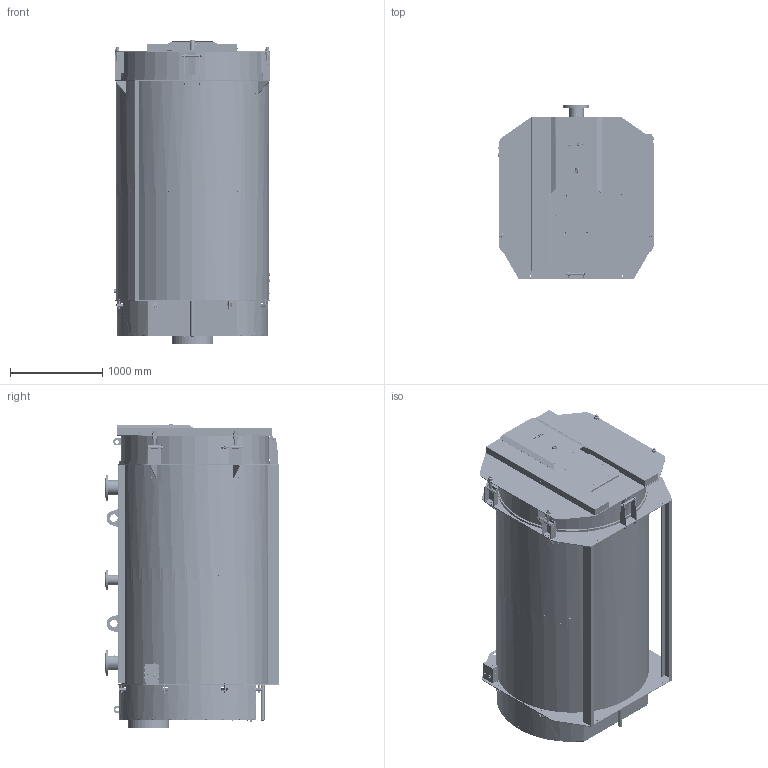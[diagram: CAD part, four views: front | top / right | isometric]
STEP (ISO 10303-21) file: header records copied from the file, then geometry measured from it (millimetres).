
FILE_DESCRIPTION(('STEP AP203'), '1');
FILE_NAME('Êîò¸ë ÒÈÒÀÍ Ïðîì 4 (2,0-2,5 ÌÂò)', '2024-06-11T08:28:04', (''), (''), 'ASCON STEP Converter 1.6', 'ASCON Math Kernel', '');
FILE_SCHEMA(('CONFIG_CONTROL_DESIGN'));
Length unit declared in the file: millimetre
Products named in the file (121): КЕВМ.3133.00.00.000; КЕВМ.3133.01.00.000; КЕВМ.3133.01.01.000; КЕВМ.3133.01.01.002; КЕВМ.3133.01.01.002-01; КЕВМ.3133.01.03.000-01; КЕВМ.3133.01.04.000; КЕВМ.3133.01.06.000-02; КЕВМ.3133.01.06.002-02; КЕВМ.3133.01.06.001-02; КЕВМ.3133.01.03.000; КЕВМ.3133.01.05.000; КЕВМ.3133.01.05.002; КЕВМ.3133.01.05.001; КЕВМ.3133.01.00.003-02; КЕВМ.3133.01.00.005; КЕВМ.3133.01.00.005-21; КЕВМ.3133.01.00.005-41; КЕВМ.3133.01.00.001; КЕВМ.3133.01.00.004-02; КЕВМ.3133.00.00.001; КЕВМ.3133.00.00.001-01; КЕВМ.3133.03.00.000; КЕВМ.3133.03.01.000; КЕВМ.3133.03.01.004; КЕВМ.3133.03.01.010; КЕВМ.3133.03.01.007-03; КЕВМ.3133.03.01.008-03; КЕВМ.3133.03.00.001; КЕВМ.3133.03.00.003; КЕВМ.3133.03.00.004; КЕВМ.3133.03.00.004-11; КЕВМ.3133.03.00.005-03; КЕВМ.3133.03.00.002; КЕВМ.3133.03.00.001-01; КЕВМ.3133.02.00.000; КЕВМ.3133.02.01.000; КЕВМ.3133.02.01.001; КЕВМ.3133.02.01.002; КЕВМ.3133.02.01.005-01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
Assembly tree (344 placements, depth 5):
  КЕВМ.3133.00.00.000
    КЕВМ.3133.01.00.000
      КЕВМ.3133.01.01.000
        КЕВМ.3133.01.01.002
      КЕВМ.3133.01.01.002-01
      КЕВМ.3133.01.03.000-01
        (unnamed)
        (unnamed)
        (unnamed)
      КЕВМ.3133.01.04.000
        (unnamed)
        (unnamed)
      КЕВМ.3133.01.06.000-02  x2
        КЕВМ.3133.01.06.002-02
        КЕВМ.3133.01.06.001-02
      КЕВМ.3133.01.03.000
        (unnamed)
        (unnamed)
      КЕВМ.3133.01.05.000  x2
        КЕВМ.3133.01.05.002
        КЕВМ.3133.01.05.001
      (unnamed)
      (unnamed)
      КЕВМ.3133.01.00.003-02
      КЕВМ.3133.01.00.003-02
      КЕВМ.3133.01.00.005
      КЕВМ.3133.01.00.005-21
      КЕВМ.3133.01.00.005-41
      КЕВМ.3133.01.00.001
      КЕВМ.3133.01.00.004-02  x2
      КЕВМ.3133.01.06.000-02  x2
        КЕВМ.3133.01.06.002-02
        КЕВМ.3133.01.06.001-02
      КЕВМ.3133.01.00.004-02  x2
    КЕВМ.3133.00.00.001
    КЕВМ.3133.00.00.001-01
    КЕВМ.3133.03.00.000
      КЕВМ.3133.03.01.000
        КЕВМ.3133.03.01.004
        КЕВМ.3133.03.01.010
        КЕВМ.3133.03.01.007-03  x4
        КЕВМ.3133.03.01.008-03
        КЕВМ.3133.03.01.007-03  x4
      КЕВМ.3133.03.00.001
      КЕВМ.3133.03.00.003
      КЕВМ.3133.03.00.004
      КЕВМ.3133.03.00.004-11
      КЕВМ.3133.03.00.005-03
      КЕВМ.3133.03.00.002
      (unnamed)  x4
      (unnamed)  x41
      (unnamed)  x27
      КЕВМ.3133.03.00.001-01
    КЕВМ.3133.02.00.000
      КЕВМ.3133.02.01.000
        КЕВМ.3133.02.01.001
        (unnamed)
          (unnamed)
        КЕВМ.3133.02.01.002
        (unnamed)
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Bounding box: 1688.16 x 1882 x 3296.43 mm (x, y, z)
Volume: 95260984.5 mm3; surface area: 64080641.9 mm2
Topology: 386 solids, 386 shells, 11179 faces, 26942 edges, 17366 vertices
Faces by surface type: plane 5883, cylinder 3853, bspline 587, cone 493, torus 338, sphere 17, extrusion 8
Full cylindrical faces by diameter (mm): 1.9 x5, 2 x70, 2.35 x140, 2.459 x4, 2.5 x2, 3 x11, 3.242 x2, 3.5 x17, 4 x156, 4.1 x70, 4.2 x4, 4.5 x8, 4.8 x1, 5 x7, 5.5 x30, 6 x9, 6.3 x4, 6.5 x12, 7 x12, 7.1 x22, 7.5 x1, 7.6 x1, 8 x11, 8.376 x3, 8.5 x6, 9 x3, 9.25 x4, 9.728 x1, 10 x17, 10.106 x6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
Entity records: 375689 total; most frequent: CARTESIAN_POINT 132615, DIRECTION 43008, ORIENTED_EDGE 42056, EDGE_CURVE 21028, AXIS2_PLACEMENT_3D 15190, VERTEX_POINT 14130, VECTOR 12628, LINE 12620
